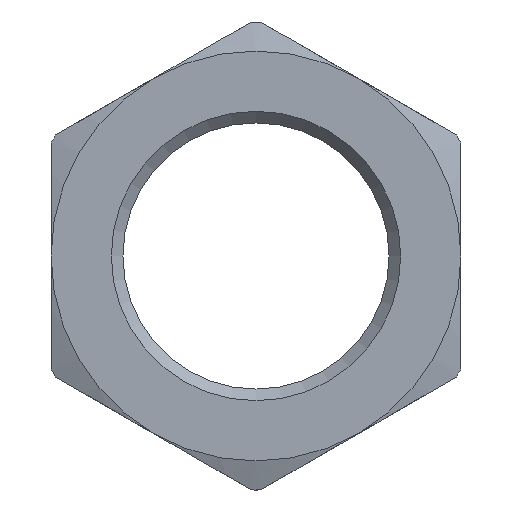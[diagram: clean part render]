
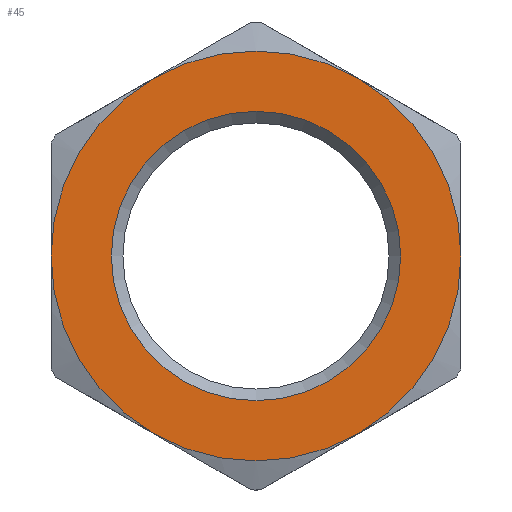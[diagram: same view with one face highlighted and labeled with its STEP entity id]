
A CAD part, front view. The second image highlights one B-rep face of the part: STEP entity #45.
In plain terms, the highlighted planar face has unit normal (0, -1, 0).
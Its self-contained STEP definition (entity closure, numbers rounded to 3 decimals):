
#45=ADVANCED_FACE('',(#77,#79),#81,.F.);
#77=FACE_BOUND('',#78,.T.);
#78=EDGE_LOOP('',(#254,#255,#256,#257));
#79=FACE_BOUND('',#80,.T.);
#80=EDGE_LOOP('',(#258));
#81=PLANE('',#82);
#82=AXIS2_PLACEMENT_3D('',#83,#84,#85);
#83=CARTESIAN_POINT('',(0.,0.,0.));
#84=DIRECTION('',(0.,1.,0.));
#85=DIRECTION('',(-1.,0.,0.));
#254=ORIENTED_EDGE('',*,*,#356,.T.);
#255=ORIENTED_EDGE('',*,*,#357,.T.);
#256=ORIENTED_EDGE('',*,*,#358,.T.);
#257=ORIENTED_EDGE('',*,*,#359,.T.);
#258=ORIENTED_EDGE('',*,*,#360,.T.);
#356=EDGE_CURVE('',#409,#410,#411,.F.);
#357=EDGE_CURVE('',#410,#412,#413,.F.);
#358=EDGE_CURVE('',#412,#414,#415,.F.);
#359=EDGE_CURVE('',#414,#409,#416,.F.);
#360=EDGE_CURVE('',#417,#417,#418,.T.);
#409=VERTEX_POINT('',#501);
#410=VERTEX_POINT('',#502);
#411=CIRCLE('',#503,30.);
#412=VERTEX_POINT('',#507);
#413=CIRCLE('',#508,30.);
#414=VERTEX_POINT('',#512);
#415=CIRCLE('',#513,30.);
#416=CIRCLE('',#517,30.);
#417=VERTEX_POINT('',#521);
#418=CIRCLE('',#522,21.176);
#501=CARTESIAN_POINT('',(15.,0.,-25.981));
#502=CARTESIAN_POINT('',(30.,0.,0.));
#503=AXIS2_PLACEMENT_3D('',#504,#505,#506);
#504=CARTESIAN_POINT('',(0.,0.,0.));
#505=DIRECTION('',(0.,1.,0.));
#506=DIRECTION('',(1.,0.,0.));
#507=CARTESIAN_POINT('',(-30.,0.,0.));
#508=AXIS2_PLACEMENT_3D('',#509,#510,#511);
#509=CARTESIAN_POINT('',(0.,0.,0.));
#510=DIRECTION('',(0.,1.,0.));
#511=DIRECTION('',(-1.,0.,0.));
#512=CARTESIAN_POINT('',(-15.,0.,-25.981));
#513=AXIS2_PLACEMENT_3D('',#514,#515,#516);
#514=CARTESIAN_POINT('',(0.,0.,0.));
#515=DIRECTION('',(0.,1.,0.));
#516=DIRECTION('',(-0.5,0.,-0.866));
#517=AXIS2_PLACEMENT_3D('',#518,#519,#520);
#518=CARTESIAN_POINT('',(0.,0.,0.));
#519=DIRECTION('',(0.,1.,0.));
#520=DIRECTION('',(0.5,0.,-0.866));
#521=CARTESIAN_POINT('',(-21.176,0.,0.));
#522=AXIS2_PLACEMENT_3D('',#523,#524,#525);
#523=CARTESIAN_POINT('',(0.,0.,0.));
#524=DIRECTION('',(0.,1.,0.));
#525=DIRECTION('',(-1.,0.,0.));
